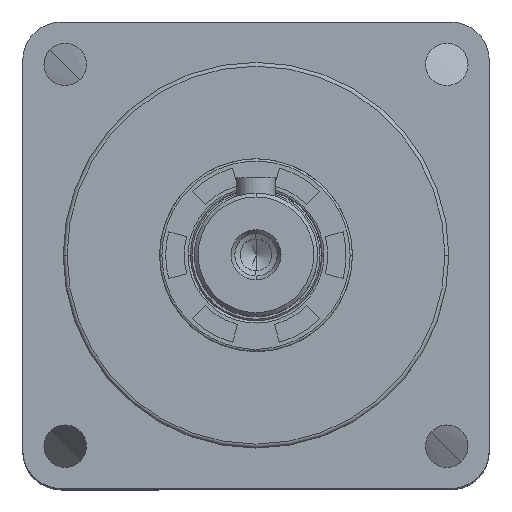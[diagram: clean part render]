
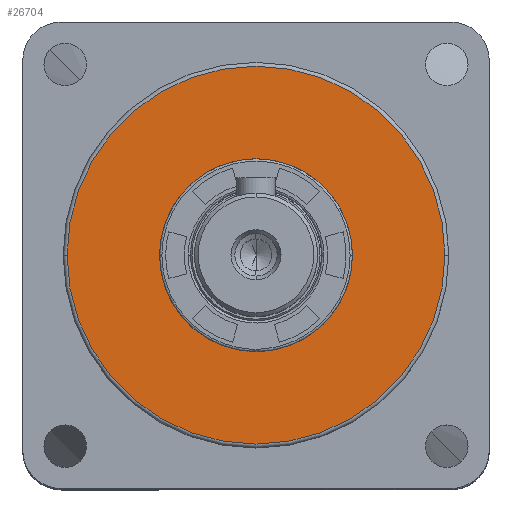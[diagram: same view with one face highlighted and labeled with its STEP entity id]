
A CAD part, top view. The second image highlights one B-rep face of the part: STEP entity #26704.
In plain terms, the highlighted planar face has unit normal (0, 0, 1).
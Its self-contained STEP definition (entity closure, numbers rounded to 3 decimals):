
#678 = CIRCLE ( 'NONE', #893, 12.5 ) ;
#893 = AXIS2_PLACEMENT_3D ( 'NONE', #11186, #23580, #1264 ) ;
#1264 = DIRECTION ( 'NONE',  ( 1., 0., 0. ) ) ;
#1757 = EDGE_LOOP ( 'NONE', ( #5521, #10371 ) ) ;
#2058 = EDGE_CURVE ( 'NONE', #5360, #2853, #678, .T. ) ;
#2853 = VERTEX_POINT ( 'NONE', #3531 ) ;
#2877 = FACE_OUTER_BOUND ( 'NONE', #1757, .T. ) ;
#3531 = CARTESIAN_POINT ( 'NONE',  ( -12.5, 0., 21. ) ) ;
#5012 = DIRECTION ( 'NONE',  ( 1., 0., 0. ) ) ;
#5360 = VERTEX_POINT ( 'NONE', #30585 ) ;
#5521 = ORIENTED_EDGE ( 'NONE', *, *, #29429, .T. ) ;
#6910 = CARTESIAN_POINT ( 'NONE',  ( 0., 0., 21. ) ) ;
#7625 = ORIENTED_EDGE ( 'NONE', *, *, #8921, .F. ) ;
#8921 = EDGE_CURVE ( 'NONE', #2853, #5360, #31695, .T. ) ;
#9157 = VERTEX_POINT ( 'NONE', #15166 ) ;
#10026 = CARTESIAN_POINT ( 'NONE',  ( -24.5, 0., 21. ) ) ;
#10253 = DIRECTION ( 'NONE',  ( 0., 0., 1. ) ) ;
#10256 = EDGE_CURVE ( 'NONE', #27614, #9157, #32038, .T. ) ;
#10371 = ORIENTED_EDGE ( 'NONE', *, *, #10256, .T. ) ;
#11186 = CARTESIAN_POINT ( 'NONE',  ( 0., 0., 21. ) ) ;
#11524 = DIRECTION ( 'NONE',  ( 0., 0., 1. ) ) ;
#15166 = CARTESIAN_POINT ( 'NONE',  ( 24.5, 0., 21. ) ) ;
#15625 = AXIS2_PLACEMENT_3D ( 'NONE', #28320, #31018, #26241 ) ;
#16473 = ORIENTED_EDGE ( 'NONE', *, *, #2058, .F. ) ;
#17210 = AXIS2_PLACEMENT_3D ( 'NONE', #31815, #10253, #5012 ) ;
#18067 = FACE_BOUND ( 'NONE', #30792, .T. ) ;
#18814 = CARTESIAN_POINT ( 'NONE',  ( 0., 0., 21. ) ) ;
#19543 = DIRECTION ( 'NONE',  ( 1., 0., 0. ) ) ;
#20542 = CIRCLE ( 'NONE', #17210, 24.5 ) ;
#23580 = DIRECTION ( 'NONE',  ( 0., 0., 1. ) ) ;
#24427 = DIRECTION ( 'NONE',  ( 0., 0., 1. ) ) ;
#25808 = PLANE ( 'NONE',  #15625 ) ;
#25925 = AXIS2_PLACEMENT_3D ( 'NONE', #18814, #11524, #28713 ) ;
#26241 = DIRECTION ( 'NONE',  ( 1., 0., 0. ) ) ;
#26704 = ADVANCED_FACE ( 'NONE', ( #2877, #18067 ), #25808, .T. ) ;
#27614 = VERTEX_POINT ( 'NONE', #10026 ) ;
#28320 = CARTESIAN_POINT ( 'NONE',  ( 0., 0., 21. ) ) ;
#28713 = DIRECTION ( 'NONE',  ( 1., 0., 0. ) ) ;
#29429 = EDGE_CURVE ( 'NONE', #9157, #27614, #20542, .T. ) ;
#29466 = AXIS2_PLACEMENT_3D ( 'NONE', #6910, #24427, #19543 ) ;
#30585 = CARTESIAN_POINT ( 'NONE',  ( 12.5, 0., 21. ) ) ;
#30792 = EDGE_LOOP ( 'NONE', ( #16473, #7625 ) ) ;
#31018 = DIRECTION ( 'NONE',  ( 0., 0., 1. ) ) ;
#31695 = CIRCLE ( 'NONE', #29466, 12.5 ) ;
#31815 = CARTESIAN_POINT ( 'NONE',  ( 0., 0., 21. ) ) ;
#32038 = CIRCLE ( 'NONE', #25925, 24.5 ) ;
